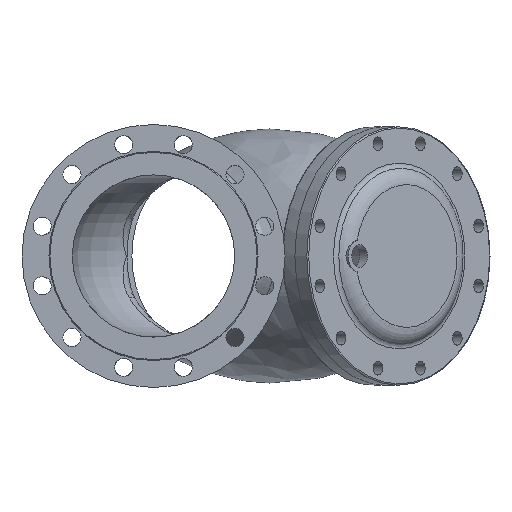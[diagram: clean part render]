
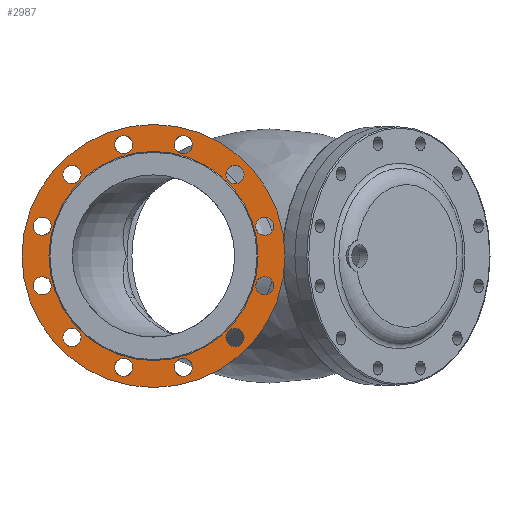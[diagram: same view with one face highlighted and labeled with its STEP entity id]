
A CAD part, left-side view. The second image highlights one B-rep face of the part: STEP entity #2987.
In plain terms, the highlighted planar face has unit normal (-1, 0, 0).
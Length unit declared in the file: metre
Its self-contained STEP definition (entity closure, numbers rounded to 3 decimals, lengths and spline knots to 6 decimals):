
#70=FACE_BOUND('',#668,.T.);
#71=FACE_BOUND('',#669,.T.);
#72=FACE_BOUND('',#670,.T.);
#73=FACE_BOUND('',#671,.T.);
#74=FACE_BOUND('',#672,.T.);
#75=FACE_BOUND('',#673,.T.);
#76=FACE_BOUND('',#674,.T.);
#77=FACE_BOUND('',#675,.T.);
#78=FACE_BOUND('',#676,.T.);
#79=FACE_BOUND('',#677,.T.);
#80=FACE_BOUND('',#678,.T.);
#81=FACE_BOUND('',#679,.T.);
#82=FACE_BOUND('',#680,.T.);
#138=PLANE('',#3333);
#492=FACE_OUTER_BOUND('',#667,.T.);
#667=EDGE_LOOP('',(#2432));
#668=EDGE_LOOP('',(#2433));
#669=EDGE_LOOP('',(#2434));
#670=EDGE_LOOP('',(#2435));
#671=EDGE_LOOP('',(#2436));
#672=EDGE_LOOP('',(#2437));
#673=EDGE_LOOP('',(#2438));
#674=EDGE_LOOP('',(#2439));
#675=EDGE_LOOP('',(#2440));
#676=EDGE_LOOP('',(#2441));
#677=EDGE_LOOP('',(#2442));
#678=EDGE_LOOP('',(#2443));
#679=EDGE_LOOP('',(#2444));
#680=EDGE_LOOP('',(#2445));
#819=CIRCLE('',#3157,0.014);
#822=CIRCLE('',#3161,0.014);
#825=CIRCLE('',#3165,0.014);
#828=CIRCLE('',#3169,0.014);
#831=CIRCLE('',#3173,0.014);
#834=CIRCLE('',#3177,0.014);
#836=CIRCLE('',#3180,0.014);
#838=CIRCLE('',#3183,0.014);
#841=CIRCLE('',#3187,0.014);
#844=CIRCLE('',#3191,0.014);
#847=CIRCLE('',#3195,0.014);
#850=CIRCLE('',#3199,0.014);
#946=CIRCLE('',#3334,0.2025);
#947=CIRCLE('',#3335,0.161);
#1221=VERTEX_POINT('',#9949);
#1224=VERTEX_POINT('',#9957);
#1228=VERTEX_POINT('',#9988);
#1232=VERTEX_POINT('',#10019);
#1236=VERTEX_POINT('',#10050);
#1241=VERTEX_POINT('',#10088);
#1245=VERTEX_POINT('',#10136);
#1248=VERTEX_POINT('',#10149);
#1252=VERTEX_POINT('',#10180);
#1256=VERTEX_POINT('',#10211);
#1260=VERTEX_POINT('',#10242);
#1265=VERTEX_POINT('',#10296);
#1402=VERTEX_POINT('',#17068);
#1403=VERTEX_POINT('',#17070);
#1543=EDGE_CURVE('',#1221,#1221,#819,.T.);
#1547=EDGE_CURVE('',#1224,#1224,#822,.T.);
#1552=EDGE_CURVE('',#1228,#1228,#825,.T.);
#1557=EDGE_CURVE('',#1232,#1232,#828,.T.);
#1562=EDGE_CURVE('',#1236,#1236,#831,.T.);
#1568=EDGE_CURVE('',#1241,#1241,#834,.T.);
#1573=EDGE_CURVE('',#1245,#1245,#836,.T.);
#1577=EDGE_CURVE('',#1248,#1248,#838,.T.);
#1582=EDGE_CURVE('',#1252,#1252,#841,.T.);
#1587=EDGE_CURVE('',#1256,#1256,#844,.T.);
#1592=EDGE_CURVE('',#1260,#1260,#847,.T.);
#1598=EDGE_CURVE('',#1265,#1265,#850,.T.);
#1805=EDGE_CURVE('',#1402,#1402,#946,.T.);
#1806=EDGE_CURVE('',#1403,#1403,#947,.T.);
#2432=ORIENTED_EDGE('',*,*,#1805,.T.);
#2433=ORIENTED_EDGE('',*,*,#1806,.F.);
#2434=ORIENTED_EDGE('',*,*,#1598,.T.);
#2435=ORIENTED_EDGE('',*,*,#1592,.T.);
#2436=ORIENTED_EDGE('',*,*,#1587,.T.);
#2437=ORIENTED_EDGE('',*,*,#1582,.T.);
#2438=ORIENTED_EDGE('',*,*,#1577,.T.);
#2439=ORIENTED_EDGE('',*,*,#1573,.T.);
#2440=ORIENTED_EDGE('',*,*,#1568,.T.);
#2441=ORIENTED_EDGE('',*,*,#1562,.T.);
#2442=ORIENTED_EDGE('',*,*,#1557,.T.);
#2443=ORIENTED_EDGE('',*,*,#1552,.T.);
#2444=ORIENTED_EDGE('',*,*,#1547,.T.);
#2445=ORIENTED_EDGE('',*,*,#1543,.T.);
#2987=ADVANCED_FACE('',(#492,#70,#71,#72,#73,#74,#75,#76,#77,#78,#79,#80,
#81,#82),#138,.F.);
#3157=AXIS2_PLACEMENT_3D('',#9951,#3577,#3578);
#3161=AXIS2_PLACEMENT_3D('',#9959,#3586,#3587);
#3165=AXIS2_PLACEMENT_3D('',#9990,#3595,#3596);
#3169=AXIS2_PLACEMENT_3D('',#10021,#3604,#3605);
#3173=AXIS2_PLACEMENT_3D('',#10052,#3613,#3614);
#3177=AXIS2_PLACEMENT_3D('',#10090,#3622,#3623);
#3180=AXIS2_PLACEMENT_3D('',#10138,#3629,#3630);
#3183=AXIS2_PLACEMENT_3D('',#10151,#3636,#3637);
#3187=AXIS2_PLACEMENT_3D('',#10182,#3645,#3646);
#3191=AXIS2_PLACEMENT_3D('',#10213,#3654,#3655);
#3195=AXIS2_PLACEMENT_3D('',#10244,#3663,#3664);
#3199=AXIS2_PLACEMENT_3D('',#10298,#3672,#3673);
#3333=AXIS2_PLACEMENT_3D('',#17067,#3972,#3973);
#3334=AXIS2_PLACEMENT_3D('',#17069,#3974,#3975);
#3335=AXIS2_PLACEMENT_3D('',#17071,#3976,#3977);
#3577=DIRECTION('center_axis',(1.,0.,0.));
#3578=DIRECTION('ref_axis',(0.,0.,-1.));
#3586=DIRECTION('center_axis',(1.,0.,0.));
#3587=DIRECTION('ref_axis',(0.,0.,-1.));
#3595=DIRECTION('center_axis',(1.,0.,0.));
#3596=DIRECTION('ref_axis',(0.,0.,-1.));
#3604=DIRECTION('center_axis',(1.,0.,0.));
#3605=DIRECTION('ref_axis',(0.,0.,-1.));
#3613=DIRECTION('center_axis',(1.,0.,0.));
#3614=DIRECTION('ref_axis',(0.,0.,-1.));
#3622=DIRECTION('center_axis',(1.,0.,0.));
#3623=DIRECTION('ref_axis',(0.,0.,-1.));
#3629=DIRECTION('center_axis',(1.,0.,0.));
#3630=DIRECTION('ref_axis',(0.,0.,-1.));
#3636=DIRECTION('center_axis',(1.,0.,0.));
#3637=DIRECTION('ref_axis',(0.,0.,-1.));
#3645=DIRECTION('center_axis',(1.,0.,0.));
#3646=DIRECTION('ref_axis',(0.,0.,-1.));
#3654=DIRECTION('center_axis',(1.,0.,0.));
#3655=DIRECTION('ref_axis',(0.,0.,-1.));
#3663=DIRECTION('center_axis',(1.,0.,0.));
#3664=DIRECTION('ref_axis',(0.,0.,-1.));
#3672=DIRECTION('center_axis',(1.,0.,0.));
#3673=DIRECTION('ref_axis',(0.,0.,-1.));
#3972=DIRECTION('center_axis',(1.,0.,0.));
#3973=DIRECTION('ref_axis',(0.,1.,0.));
#3974=DIRECTION('center_axis',(-1.,0.,0.));
#3975=DIRECTION('ref_axis',(0.,0.,1.));
#3976=DIRECTION('center_axis',(-1.,0.,0.));
#3977=DIRECTION('ref_axis',(0.,0.,1.));
#9949=CARTESIAN_POINT('',(-0.3635,-0.04594,-0.185452));
#9951=CARTESIAN_POINT('Origin',(-0.3635,-0.04594,-0.171452));
#9957=CARTESIAN_POINT('',(-0.3635,-0.125511,-0.139511));
#9959=CARTESIAN_POINT('Origin',(-0.3635,-0.125511,-0.125511));
#9988=CARTESIAN_POINT('',(-0.3635,-0.171452,-0.05994));
#9990=CARTESIAN_POINT('Origin',(-0.3635,-0.171452,-0.04594));
#10019=CARTESIAN_POINT('',(-0.3635,-0.171452,0.03194));
#10021=CARTESIAN_POINT('Origin',(-0.3635,-0.171452,0.04594));
#10050=CARTESIAN_POINT('',(-0.3635,-0.125511,0.111511));
#10052=CARTESIAN_POINT('Origin',(-0.3635,-0.125511,0.125511));
#10088=CARTESIAN_POINT('',(-0.3635,-0.04594,0.157452));
#10090=CARTESIAN_POINT('Origin',(-0.3635,-0.04594,0.171452));
#10136=CARTESIAN_POINT('',(-0.3635,0.04594,0.157452));
#10138=CARTESIAN_POINT('Origin',(-0.3635,0.04594,0.171452));
#10149=CARTESIAN_POINT('',(-0.3635,0.125511,0.111511));
#10151=CARTESIAN_POINT('Origin',(-0.3635,0.125511,0.125511));
#10180=CARTESIAN_POINT('',(-0.3635,0.171452,0.03194));
#10182=CARTESIAN_POINT('Origin',(-0.3635,0.171452,0.04594));
#10211=CARTESIAN_POINT('',(-0.3635,0.171452,-0.05994));
#10213=CARTESIAN_POINT('Origin',(-0.3635,0.171452,-0.04594));
#10242=CARTESIAN_POINT('',(-0.3635,0.125511,-0.139511));
#10244=CARTESIAN_POINT('Origin',(-0.3635,0.125511,-0.125511));
#10296=CARTESIAN_POINT('',(-0.3635,0.04594,-0.185452));
#10298=CARTESIAN_POINT('Origin',(-0.3635,0.04594,-0.171452));
#17067=CARTESIAN_POINT('Origin',(-0.3635,0.161,0.));
#17068=CARTESIAN_POINT('',(-0.3635,0.,-0.2025));
#17069=CARTESIAN_POINT('Origin',(-0.3635,0.,0.));
#17070=CARTESIAN_POINT('',(-0.3635,0.,-0.161));
#17071=CARTESIAN_POINT('Origin',(-0.3635,0.,0.));
